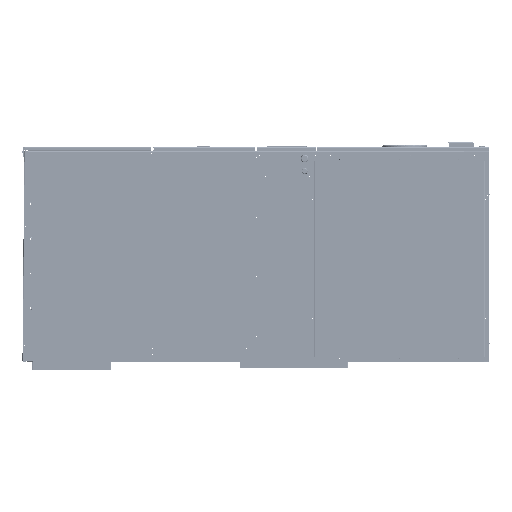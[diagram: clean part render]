
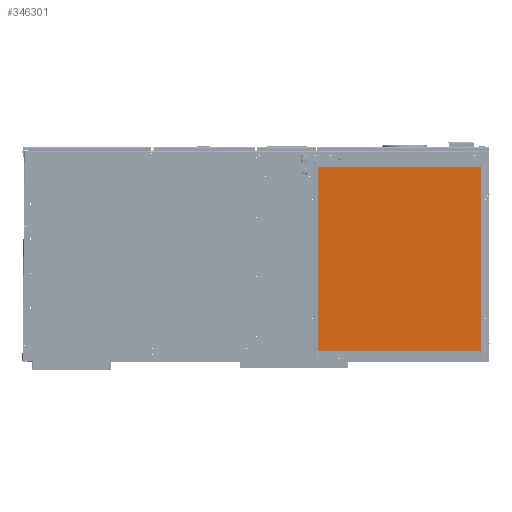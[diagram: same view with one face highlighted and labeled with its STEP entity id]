
A CAD part, left-side view. The second image highlights one B-rep face of the part: STEP entity #346301.
In plain terms, the highlighted planar face has unit normal (-1, 0, 0).
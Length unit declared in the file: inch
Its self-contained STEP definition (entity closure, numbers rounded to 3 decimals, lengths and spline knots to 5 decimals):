
#20806 = VERTEX_POINT ( 'NONE', #501489 ) ;
#21611 = VECTOR ( 'NONE', #477612, 39.37008 ) ;
#40372 = EDGE_CURVE ( 'NONE', #552651, #577351, #395989, .T. ) ;
#127235 = VECTOR ( 'NONE', #429715, 39.37008 ) ;
#152043 = DIRECTION ( 'NONE',  ( 0., 0., -1. ) ) ;
#157605 = PLANE ( 'NONE',  #346776 ) ;
#177369 = VECTOR ( 'NONE', #152043, 39.37008 ) ;
#244309 = LINE ( 'NONE', #355151, #332912 ) ;
#252884 = EDGE_CURVE ( 'NONE', #327146, #20806, #256517, .T. ) ;
#256517 = LINE ( 'NONE', #504569, #177369 ) ;
#264593 = ORIENTED_EDGE ( 'NONE', *, *, #40372, .T. ) ;
#272160 = ORIENTED_EDGE ( 'NONE', *, *, #252884, .T. ) ;
#274866 = DIRECTION ( 'NONE',  ( -1., 0., 0. ) ) ;
#304527 = FACE_OUTER_BOUND ( 'NONE', #311156, .T. ) ;
#311156 = EDGE_LOOP ( 'NONE', ( #518386, #264593, #466700, #272160 ) ) ;
#324261 = LINE ( 'NONE', #369921, #21611 ) ;
#327146 = VERTEX_POINT ( 'NONE', #369955 ) ;
#330191 = CARTESIAN_POINT ( 'NONE',  ( -25.4955, 0.53785, -20.71268 ) ) ;
#332912 = VECTOR ( 'NONE', #351919, 39.37008 ) ;
#346301 = ADVANCED_FACE ( 'NONE', ( #304527 ), #157605, .T. ) ;
#346776 = AXIS2_PLACEMENT_3D ( 'NONE', #330191, #274866, #464205 ) ;
#351919 = DIRECTION ( 'NONE',  ( 0., -1., 0. ) ) ;
#355151 = CARTESIAN_POINT ( 'NONE',  ( -25.4955, 33.95736, -19.51268 ) ) ;
#369921 = CARTESIAN_POINT ( 'NONE',  ( -25.4955, 1.03785, 17.46232 ) ) ;
#369955 = CARTESIAN_POINT ( 'NONE',  ( -25.4955, 33.95736, 17.46232 ) ) ;
#376834 = CARTESIAN_POINT ( 'NONE',  ( -25.4955, 1.03785, -19.51268 ) ) ;
#387129 = EDGE_CURVE ( 'NONE', #20806, #552651, #244309, .T. ) ;
#395989 = LINE ( 'NONE', #628957, #127235 ) ;
#429715 = DIRECTION ( 'NONE',  ( 0., 0., 1. ) ) ;
#464205 = DIRECTION ( 'NONE',  ( 0., 0., 1. ) ) ;
#466700 = ORIENTED_EDGE ( 'NONE', *, *, #530996, .T. ) ;
#477612 = DIRECTION ( 'NONE',  ( 0., 1., 0. ) ) ;
#501489 = CARTESIAN_POINT ( 'NONE',  ( -25.4955, 33.95736, -19.51268 ) ) ;
#504569 = CARTESIAN_POINT ( 'NONE',  ( -25.4955, 33.95736, 17.46232 ) ) ;
#518386 = ORIENTED_EDGE ( 'NONE', *, *, #387129, .T. ) ;
#530996 = EDGE_CURVE ( 'NONE', #577351, #327146, #324261, .T. ) ;
#552651 = VERTEX_POINT ( 'NONE', #376834 ) ;
#577351 = VERTEX_POINT ( 'NONE', #646332 ) ;
#628957 = CARTESIAN_POINT ( 'NONE',  ( -25.4955, 1.03785, -19.51268 ) ) ;
#646332 = CARTESIAN_POINT ( 'NONE',  ( -25.4955, 1.03785, 17.46232 ) ) ;
